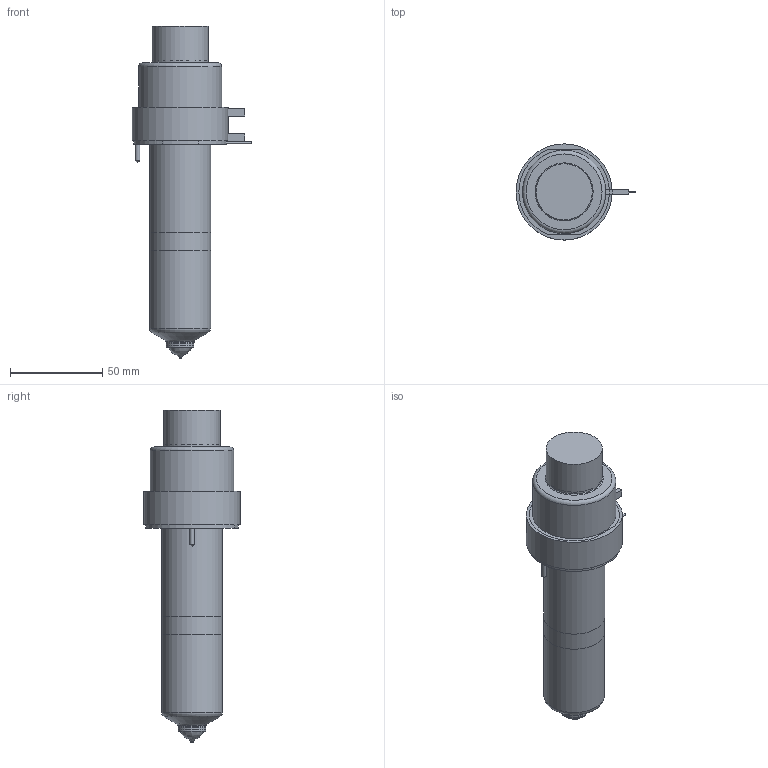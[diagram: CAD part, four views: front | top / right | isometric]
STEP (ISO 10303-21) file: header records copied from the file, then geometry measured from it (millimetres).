
FILE_DESCRIPTION(/* description */ (''),/* implementation_level */ '2;1');
FILE_NAME(/* name */ 'SXTT-SXIT19115_250C_b',/* time_stamp */ '2007-01-24T17:20:40+13:00',/* author */ (''),/* organization */ (''),/* preprocessor_version */ 'ST-DEVELOPER v9',/* originating_system */ 'UGS - NX 4.0',/* authorisation */ '');
FILE_SCHEMA (('CONFIG_CONTROL_DESIGN'));
Length unit declared in the file: millimetre
Products named in the file (1): SXTT-SXIT19115_250C_b
Bounding box: 64.85 x 52 x 179.58 mm (x, y, z)
Volume: 324131.7 mm3; surface area: 47671.2 mm2
Topology: 7 solids, 7 shells, 96 faces, 188 edges, 120 vertices
Faces by surface type: plane 45, cylinder 28, cone 11, torus 10, bspline 2
Full cylindrical faces by diameter (mm): 1 x3, 1.2 x1, 2.5 x2, 8 x1, 14.61 x1, 15.01 x2, 18.3 x1, 28.6 x1, 30 x1, 30.4 x1, 33 x2, 38.1 x1, 45 x1, 50 x1, 52 x1
Entity records: 2353 total; most frequent: CARTESIAN_POINT 477, DIRECTION 396, ORIENTED_EDGE 276, AXIS2_PLACEMENT_3D 173, EDGE_LOOP 150, EDGE_CURVE 138, VERTEX_POINT 111, ADVANCED_FACE 96
